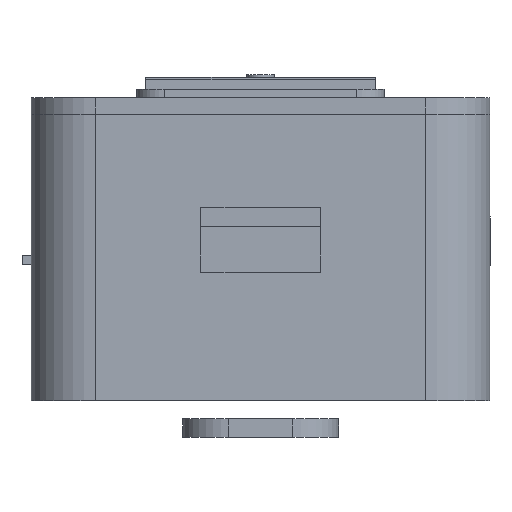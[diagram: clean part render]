
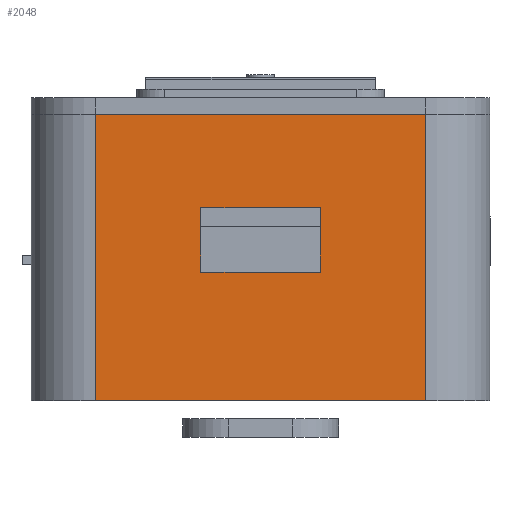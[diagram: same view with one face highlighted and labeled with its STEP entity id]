
A CAD part, front view. The second image highlights one B-rep face of the part: STEP entity #2048.
In plain terms, the highlighted planar face has unit normal (0, -1, 0).
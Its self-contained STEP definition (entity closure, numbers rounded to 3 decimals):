
#44 = CYLINDRICAL_SURFACE('',#45,7.);
#45 = AXIS2_PLACEMENT_3D('',#46,#47,#48);
#46 = CARTESIAN_POINT('',(-18.,-28.,-13.));
#47 = DIRECTION('',(0.,0.,-1.));
#48 = DIRECTION('',(-1.,0.,0.));
#72 = PLANE('',#73);
#73 = AXIS2_PLACEMENT_3D('',#74,#75,#76);
#74 = CARTESIAN_POINT('',(0.,0.,18.2));
#75 = DIRECTION('',(0.,0.,1.));
#76 = DIRECTION('',(1.,0.,-0.));
#126 = PLANE('',#127);
#127 = AXIS2_PLACEMENT_3D('',#128,#129,#130);
#128 = CARTESIAN_POINT('',(0.,0.,-13.)
  );
#129 = DIRECTION('',(0.,0.,1.));
#130 = DIRECTION('',(1.,0.,-0.));
#467 = EDGE_CURVE('',#468,#470,#472,.T.);
#468 = VERTEX_POINT('',#469);
#469 = CARTESIAN_POINT('',(-18.,-35.,-13.));
#470 = VERTEX_POINT('',#471);
#471 = CARTESIAN_POINT('',(-18.,-35.,18.2));
#472 = SURFACE_CURVE('',#473,(#477,#484),.PCURVE_S1.);
#473 = LINE('',#474,#475);
#474 = CARTESIAN_POINT('',(-18.,-35.,-13.));
#475 = VECTOR('',#476,1.);
#476 = DIRECTION('',(0.,0.,1.));
#477 = PCURVE('',#44,#478);
#478 = DEFINITIONAL_REPRESENTATION('',(#479),#483);
#479 = LINE('',#480,#481);
#480 = CARTESIAN_POINT('',(4.712,0.));
#481 = VECTOR('',#482,1.);
#482 = DIRECTION('',(0.,-1.));
#483 = ( GEOMETRIC_REPRESENTATION_CONTEXT(2) 
PARAMETRIC_REPRESENTATION_CONTEXT() REPRESENTATION_CONTEXT('2D SPACE',''
  ) );
#484 = PCURVE('',#485,#490);
#485 = PLANE('',#486);
#486 = AXIS2_PLACEMENT_3D('',#487,#488,#489);
#487 = CARTESIAN_POINT('',(-18.,-35.,-13.));
#488 = DIRECTION('',(0.,1.,0.));
#489 = DIRECTION('',(1.,0.,0.));
#490 = DEFINITIONAL_REPRESENTATION('',(#491),#495);
#491 = LINE('',#492,#493);
#492 = CARTESIAN_POINT('',(0.,0.));
#493 = VECTOR('',#494,1.);
#494 = DIRECTION('',(0.,-1.));
#495 = ( GEOMETRIC_REPRESENTATION_CONTEXT(2) 
PARAMETRIC_REPRESENTATION_CONTEXT() REPRESENTATION_CONTEXT('2D SPACE',''
  ) );
#555 = EDGE_CURVE('',#468,#556,#558,.T.);
#556 = VERTEX_POINT('',#557);
#557 = CARTESIAN_POINT('',(18.,-35.,-13.));
#558 = SURFACE_CURVE('',#559,(#563,#570),.PCURVE_S1.);
#559 = LINE('',#560,#561);
#560 = CARTESIAN_POINT('',(0.,-35.,-13.));
#561 = VECTOR('',#562,1.);
#562 = DIRECTION('',(1.,0.,0.));
#563 = PCURVE('',#126,#564);
#564 = DEFINITIONAL_REPRESENTATION('',(#565),#569);
#565 = LINE('',#566,#567);
#566 = CARTESIAN_POINT('',(0.,-35.));
#567 = VECTOR('',#568,1.);
#568 = DIRECTION('',(1.,0.));
#569 = ( GEOMETRIC_REPRESENTATION_CONTEXT(2) 
PARAMETRIC_REPRESENTATION_CONTEXT() REPRESENTATION_CONTEXT('2D SPACE',''
  ) );
#570 = PCURVE('',#485,#571);
#571 = DEFINITIONAL_REPRESENTATION('',(#572),#576);
#572 = LINE('',#573,#574);
#573 = CARTESIAN_POINT('',(18.,0.));
#574 = VECTOR('',#575,1.);
#575 = DIRECTION('',(1.,0.));
#576 = ( GEOMETRIC_REPRESENTATION_CONTEXT(2) 
PARAMETRIC_REPRESENTATION_CONTEXT() REPRESENTATION_CONTEXT('2D SPACE',''
  ) );
#599 = CYLINDRICAL_SURFACE('',#600,7.);
#600 = AXIS2_PLACEMENT_3D('',#601,#602,#603);
#601 = CARTESIAN_POINT('',(18.,-28.,-13.));
#602 = DIRECTION('',(0.,0.,-1.));
#603 = DIRECTION('',(-1.,0.,0.));
#997 = EDGE_CURVE('',#470,#998,#1000,.T.);
#998 = VERTEX_POINT('',#999);
#999 = CARTESIAN_POINT('',(18.,-35.,18.2));
#1000 = SURFACE_CURVE('',#1001,(#1005,#1012),.PCURVE_S1.);
#1001 = LINE('',#1002,#1003);
#1002 = CARTESIAN_POINT('',(0.,-35.,18.2));
#1003 = VECTOR('',#1004,1.);
#1004 = DIRECTION('',(1.,0.,0.));
#1005 = PCURVE('',#72,#1006);
#1006 = DEFINITIONAL_REPRESENTATION('',(#1007),#1011);
#1007 = LINE('',#1008,#1009);
#1008 = CARTESIAN_POINT('',(0.,-35.));
#1009 = VECTOR('',#1010,1.);
#1010 = DIRECTION('',(1.,0.));
#1011 = ( GEOMETRIC_REPRESENTATION_CONTEXT(2) 
PARAMETRIC_REPRESENTATION_CONTEXT() REPRESENTATION_CONTEXT('2D SPACE',''
  ) );
#1012 = PCURVE('',#485,#1013);
#1013 = DEFINITIONAL_REPRESENTATION('',(#1014),#1018);
#1014 = LINE('',#1015,#1016);
#1015 = CARTESIAN_POINT('',(18.,-31.2));
#1016 = VECTOR('',#1017,1.);
#1017 = DIRECTION('',(1.,0.));
#1018 = ( GEOMETRIC_REPRESENTATION_CONTEXT(2) 
PARAMETRIC_REPRESENTATION_CONTEXT() REPRESENTATION_CONTEXT('2D SPACE',''
  ) );
#2048 = ADVANCED_FACE('',(#2049,#2075),#485,.F.);
#2049 = FACE_BOUND('',#2050,.F.);
#2050 = EDGE_LOOP('',(#2051,#2052,#2053,#2074));
#2051 = ORIENTED_EDGE('',*,*,#467,.T.);
#2052 = ORIENTED_EDGE('',*,*,#997,.T.);
#2053 = ORIENTED_EDGE('',*,*,#2054,.F.);
#2054 = EDGE_CURVE('',#556,#998,#2055,.T.);
#2055 = SURFACE_CURVE('',#2056,(#2060,#2067),.PCURVE_S1.);
#2056 = LINE('',#2057,#2058);
#2057 = CARTESIAN_POINT('',(18.,-35.,-13.));
#2058 = VECTOR('',#2059,1.);
#2059 = DIRECTION('',(0.,0.,1.));
#2060 = PCURVE('',#485,#2061);
#2061 = DEFINITIONAL_REPRESENTATION('',(#2062),#2066);
#2062 = LINE('',#2063,#2064);
#2063 = CARTESIAN_POINT('',(36.,0.));
#2064 = VECTOR('',#2065,1.);
#2065 = DIRECTION('',(0.,-1.));
#2066 = ( GEOMETRIC_REPRESENTATION_CONTEXT(2) 
PARAMETRIC_REPRESENTATION_CONTEXT() REPRESENTATION_CONTEXT('2D SPACE',''
  ) );
#2067 = PCURVE('',#599,#2068);
#2068 = DEFINITIONAL_REPRESENTATION('',(#2069),#2073);
#2069 = LINE('',#2070,#2071);
#2070 = CARTESIAN_POINT('',(4.712,0.));
#2071 = VECTOR('',#2072,1.);
#2072 = DIRECTION('',(0.,-1.));
#2073 = ( GEOMETRIC_REPRESENTATION_CONTEXT(2) 
PARAMETRIC_REPRESENTATION_CONTEXT() REPRESENTATION_CONTEXT('2D SPACE',''
  ) );
#2074 = ORIENTED_EDGE('',*,*,#555,.F.);
#2075 = FACE_BOUND('',#2076,.F.);
#2076 = EDGE_LOOP('',(#2077,#2105,#2131,#2157));
#2077 = ORIENTED_EDGE('',*,*,#2078,.F.);
#2078 = EDGE_CURVE('',#2079,#2081,#2083,.T.);
#2079 = VERTEX_POINT('',#2080);
#2080 = CARTESIAN_POINT('',(-6.5,-35.,8.));
#2081 = VERTEX_POINT('',#2082);
#2082 = CARTESIAN_POINT('',(6.5,-35.,8.));
#2083 = SURFACE_CURVE('',#2084,(#2088,#2094),.PCURVE_S1.);
#2084 = LINE('',#2085,#2086);
#2085 = CARTESIAN_POINT('',(-12.25,-35.,8.));
#2086 = VECTOR('',#2087,1.);
#2087 = DIRECTION('',(1.,0.,0.));
#2088 = PCURVE('',#485,#2089);
#2089 = DEFINITIONAL_REPRESENTATION('',(#2090),#2093);
#2090 = B_SPLINE_CURVE_WITH_KNOTS('',1,(#2091,#2092),.UNSPECIFIED.,.F.,
  .F.,(2,2),(5.75,18.75),.PIECEWISE_BEZIER_KNOTS.);
#2091 = CARTESIAN_POINT('',(11.5,-21.));
#2092 = CARTESIAN_POINT('',(24.5,-21.));
#2093 = ( GEOMETRIC_REPRESENTATION_CONTEXT(2) 
PARAMETRIC_REPRESENTATION_CONTEXT() REPRESENTATION_CONTEXT('2D SPACE',''
  ) );
#2094 = PCURVE('',#2095,#2100);
#2095 = PLANE('',#2096);
#2096 = AXIS2_PLACEMENT_3D('',#2097,#2098,#2099);
#2097 = CARTESIAN_POINT('',(-6.5,-40.,8.));
#2098 = DIRECTION('',(0.,0.,1.));
#2099 = DIRECTION('',(1.,0.,-0.));
#2100 = DEFINITIONAL_REPRESENTATION('',(#2101),#2104);
#2101 = B_SPLINE_CURVE_WITH_KNOTS('',1,(#2102,#2103),.UNSPECIFIED.,.F.,
  .F.,(2,2),(5.75,18.75),.PIECEWISE_BEZIER_KNOTS.);
#2102 = CARTESIAN_POINT('',(0.,5.));
#2103 = CARTESIAN_POINT('',(13.,5.));
#2104 = ( GEOMETRIC_REPRESENTATION_CONTEXT(2) 
PARAMETRIC_REPRESENTATION_CONTEXT() REPRESENTATION_CONTEXT('2D SPACE',''
  ) );
#2105 = ORIENTED_EDGE('',*,*,#2106,.T.);
#2106 = EDGE_CURVE('',#2079,#2107,#2109,.T.);
#2107 = VERTEX_POINT('',#2108);
#2108 = CARTESIAN_POINT('',(-6.5,-35.,1.));
#2109 = SURFACE_CURVE('',#2110,(#2114,#2120),.PCURVE_S1.);
#2110 = LINE('',#2111,#2112);
#2111 = CARTESIAN_POINT('',(-6.5,-35.,-6.));
#2112 = VECTOR('',#2113,1.);
#2113 = DIRECTION('',(-0.,0.,-1.));
#2114 = PCURVE('',#485,#2115);
#2115 = DEFINITIONAL_REPRESENTATION('',(#2116),#2119);
#2116 = B_SPLINE_CURVE_WITH_KNOTS('',1,(#2117,#2118),.UNSPECIFIED.,.F.,
  .F.,(2,2),(-14.,-7.),.PIECEWISE_BEZIER_KNOTS.);
#2117 = CARTESIAN_POINT('',(11.5,-21.));
#2118 = CARTESIAN_POINT('',(11.5,-14.));
#2119 = ( GEOMETRIC_REPRESENTATION_CONTEXT(2) 
PARAMETRIC_REPRESENTATION_CONTEXT() REPRESENTATION_CONTEXT('2D SPACE',''
  ) );
#2120 = PCURVE('',#2121,#2126);
#2121 = PLANE('',#2122);
#2122 = AXIS2_PLACEMENT_3D('',#2123,#2124,#2125);
#2123 = CARTESIAN_POINT('',(-6.5,-40.,1.));
#2124 = DIRECTION('',(1.,0.,-0.));
#2125 = DIRECTION('',(0.,0.,1.));
#2126 = DEFINITIONAL_REPRESENTATION('',(#2127),#2130);
#2127 = B_SPLINE_CURVE_WITH_KNOTS('',1,(#2128,#2129),.UNSPECIFIED.,.F.,
  .F.,(2,2),(-14.,-7.),.PIECEWISE_BEZIER_KNOTS.);
#2128 = CARTESIAN_POINT('',(7.,-5.));
#2129 = CARTESIAN_POINT('',(0.,-5.));
#2130 = ( GEOMETRIC_REPRESENTATION_CONTEXT(2) 
PARAMETRIC_REPRESENTATION_CONTEXT() REPRESENTATION_CONTEXT('2D SPACE',''
  ) );
#2131 = ORIENTED_EDGE('',*,*,#2132,.T.);
#2132 = EDGE_CURVE('',#2107,#2133,#2135,.T.);
#2133 = VERTEX_POINT('',#2134);
#2134 = CARTESIAN_POINT('',(6.5,-35.,1.));
#2135 = SURFACE_CURVE('',#2136,(#2140,#2146),.PCURVE_S1.);
#2136 = LINE('',#2137,#2138);
#2137 = CARTESIAN_POINT('',(-12.25,-35.,1.));
#2138 = VECTOR('',#2139,1.);
#2139 = DIRECTION('',(1.,0.,0.));
#2140 = PCURVE('',#485,#2141);
#2141 = DEFINITIONAL_REPRESENTATION('',(#2142),#2145);
#2142 = B_SPLINE_CURVE_WITH_KNOTS('',1,(#2143,#2144),.UNSPECIFIED.,.F.,
  .F.,(2,2),(5.75,18.75),.PIECEWISE_BEZIER_KNOTS.);
#2143 = CARTESIAN_POINT('',(11.5,-14.));
#2144 = CARTESIAN_POINT('',(24.5,-14.));
#2145 = ( GEOMETRIC_REPRESENTATION_CONTEXT(2) 
PARAMETRIC_REPRESENTATION_CONTEXT() REPRESENTATION_CONTEXT('2D SPACE',''
  ) );
#2146 = PCURVE('',#2147,#2152);
#2147 = PLANE('',#2148);
#2148 = AXIS2_PLACEMENT_3D('',#2149,#2150,#2151);
#2149 = CARTESIAN_POINT('',(-6.5,-40.,1.));
#2150 = DIRECTION('',(0.,0.,1.));
#2151 = DIRECTION('',(1.,0.,-0.));
#2152 = DEFINITIONAL_REPRESENTATION('',(#2153),#2156);
#2153 = B_SPLINE_CURVE_WITH_KNOTS('',1,(#2154,#2155),.UNSPECIFIED.,.F.,
  .F.,(2,2),(5.75,18.75),.PIECEWISE_BEZIER_KNOTS.);
#2154 = CARTESIAN_POINT('',(0.,5.));
#2155 = CARTESIAN_POINT('',(13.,5.));
#2156 = ( GEOMETRIC_REPRESENTATION_CONTEXT(2) 
PARAMETRIC_REPRESENTATION_CONTEXT() REPRESENTATION_CONTEXT('2D SPACE',''
  ) );
#2157 = ORIENTED_EDGE('',*,*,#2158,.F.);
#2158 = EDGE_CURVE('',#2081,#2133,#2159,.T.);
#2159 = SURFACE_CURVE('',#2160,(#2164,#2170),.PCURVE_S1.);
#2160 = LINE('',#2161,#2162);
#2161 = CARTESIAN_POINT('',(6.5,-35.,-6.));
#2162 = VECTOR('',#2163,1.);
#2163 = DIRECTION('',(-0.,0.,-1.));
#2164 = PCURVE('',#485,#2165);
#2165 = DEFINITIONAL_REPRESENTATION('',(#2166),#2169);
#2166 = B_SPLINE_CURVE_WITH_KNOTS('',1,(#2167,#2168),.UNSPECIFIED.,.F.,
  .F.,(2,2),(-14.,-7.),.PIECEWISE_BEZIER_KNOTS.);
#2167 = CARTESIAN_POINT('',(24.5,-21.));
#2168 = CARTESIAN_POINT('',(24.5,-14.));
#2169 = ( GEOMETRIC_REPRESENTATION_CONTEXT(2) 
PARAMETRIC_REPRESENTATION_CONTEXT() REPRESENTATION_CONTEXT('2D SPACE',''
  ) );
#2170 = PCURVE('',#2171,#2176);
#2171 = PLANE('',#2172);
#2172 = AXIS2_PLACEMENT_3D('',#2173,#2174,#2175);
#2173 = CARTESIAN_POINT('',(6.5,-40.,1.));
#2174 = DIRECTION('',(1.,0.,-0.));
#2175 = DIRECTION('',(0.,0.,1.));
#2176 = DEFINITIONAL_REPRESENTATION('',(#2177),#2180);
#2177 = B_SPLINE_CURVE_WITH_KNOTS('',1,(#2178,#2179),.UNSPECIFIED.,.F.,
  .F.,(2,2),(-14.,-7.),.PIECEWISE_BEZIER_KNOTS.);
#2178 = CARTESIAN_POINT('',(7.,-5.));
#2179 = CARTESIAN_POINT('',(0.,-5.));
#2180 = ( GEOMETRIC_REPRESENTATION_CONTEXT(2) 
PARAMETRIC_REPRESENTATION_CONTEXT() REPRESENTATION_CONTEXT('2D SPACE',''
  ) );
